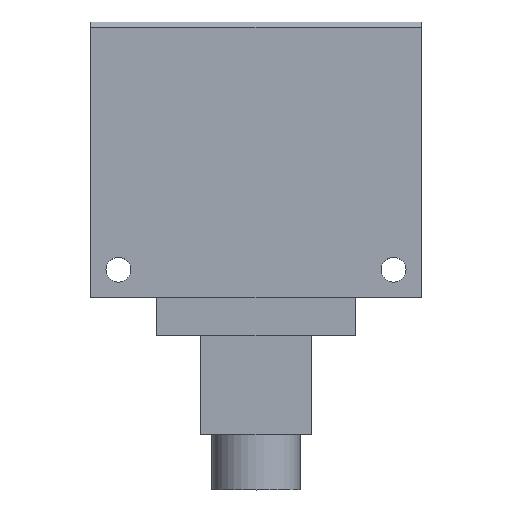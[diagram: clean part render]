
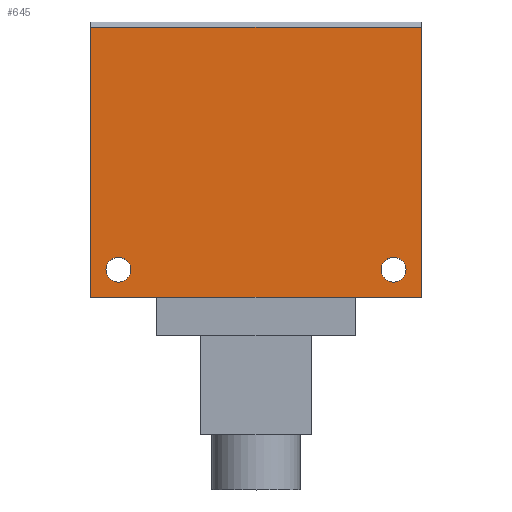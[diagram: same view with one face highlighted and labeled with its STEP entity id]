
A CAD part, top view. The second image highlights one B-rep face of the part: STEP entity #645.
In plain terms, the highlighted planar face has unit normal (0, 0, 1).
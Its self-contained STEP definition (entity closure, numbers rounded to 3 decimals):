
#28=FACE_BOUND('',#128,.T.);
#29=FACE_BOUND('',#129,.T.);
#43=PLANE('',#711);
#82=FACE_OUTER_BOUND('',#127,.T.);
#127=EDGE_LOOP('',(#527,#528,#529,#530));
#128=EDGE_LOOP('',(#531));
#129=EDGE_LOOP('',(#532));
#157=LINE('',#936,#232);
#162=LINE('',#946,#237);
#183=LINE('',#998,#258);
#185=LINE('',#1001,#260);
#232=VECTOR('',#761,10.);
#237=VECTOR('',#768,10.);
#258=VECTOR('',#819,10.);
#260=VECTOR('',#823,10.);
#306=CIRCLE('',#699,2.25);
#308=CIRCLE('',#702,2.25);
#316=VERTEX_POINT('',#929);
#319=VERTEX_POINT('',#934);
#323=VERTEX_POINT('',#944);
#330=VERTEX_POINT('',#964);
#332=VERTEX_POINT('',#970);
#339=VERTEX_POINT('',#997);
#377=EDGE_CURVE('',#319,#316,#157,.T.);
#382=EDGE_CURVE('',#323,#319,#162,.T.);
#391=EDGE_CURVE('',#330,#330,#306,.T.);
#394=EDGE_CURVE('',#332,#332,#308,.T.);
#407=EDGE_CURVE('',#339,#316,#183,.T.);
#409=EDGE_CURVE('',#339,#323,#185,.T.);
#527=ORIENTED_EDGE('',*,*,#377,.F.);
#528=ORIENTED_EDGE('',*,*,#382,.F.);
#529=ORIENTED_EDGE('',*,*,#409,.F.);
#530=ORIENTED_EDGE('',*,*,#407,.T.);
#531=ORIENTED_EDGE('',*,*,#391,.T.);
#532=ORIENTED_EDGE('',*,*,#394,.T.);
#645=ADVANCED_FACE('',(#82,#28,#29),#43,.T.);
#699=AXIS2_PLACEMENT_3D('',#965,#783,#784);
#702=AXIS2_PLACEMENT_3D('',#971,#790,#791);
#711=AXIS2_PLACEMENT_3D('',#1000,#821,#822);
#761=DIRECTION('',(1.,0.,0.));
#768=DIRECTION('',(0.,1.,0.));
#783=DIRECTION('center_axis',(0.,0.,-1.));
#784=DIRECTION('ref_axis',(1.,0.,0.));
#790=DIRECTION('center_axis',(0.,0.,-1.));
#791=DIRECTION('ref_axis',(1.,0.,0.));
#819=DIRECTION('',(0.,1.,0.));
#821=DIRECTION('center_axis',(0.,0.,1.));
#822=DIRECTION('ref_axis',(1.,0.,0.));
#823=DIRECTION('',(-1.,0.,0.));
#929=CARTESIAN_POINT('',(30.,84.,2.));
#934=CARTESIAN_POINT('',(-30.,84.,2.));
#936=CARTESIAN_POINT('',(-15.,84.,2.));
#944=CARTESIAN_POINT('',(-30.,35.,2.));
#946=CARTESIAN_POINT('',(-30.,35.,2.));
#964=CARTESIAN_POINT('',(-27.25,40.,2.));
#965=CARTESIAN_POINT('Origin',(-25.,40.,2.));
#970=CARTESIAN_POINT('',(22.75,40.,2.));
#971=CARTESIAN_POINT('Origin',(25.,40.,2.));
#997=CARTESIAN_POINT('',(30.,35.,2.));
#998=CARTESIAN_POINT('',(30.,35.,2.));
#1000=CARTESIAN_POINT('Origin',(-30.,35.,2.));
#1001=CARTESIAN_POINT('',(30.,35.,2.));
